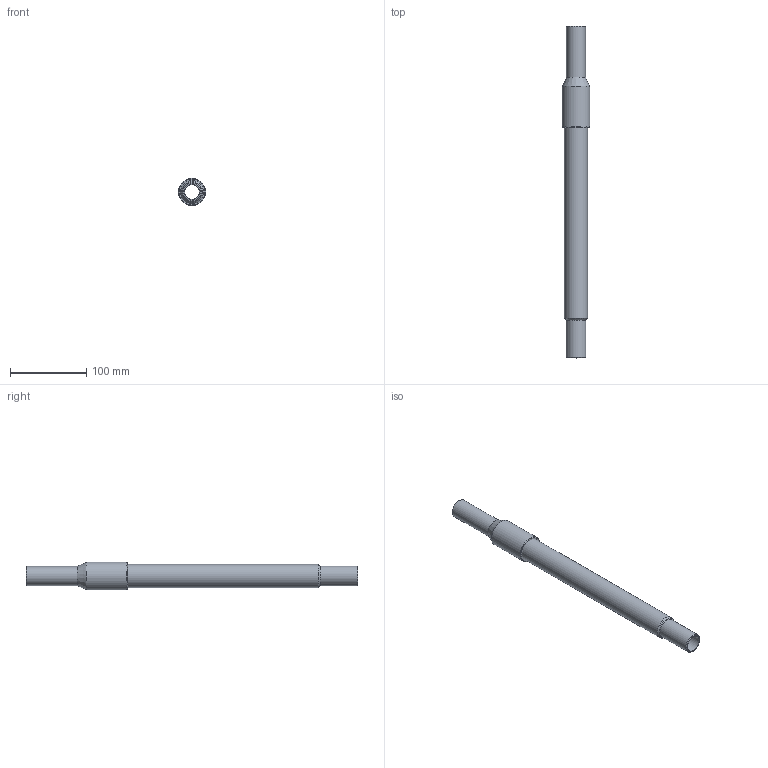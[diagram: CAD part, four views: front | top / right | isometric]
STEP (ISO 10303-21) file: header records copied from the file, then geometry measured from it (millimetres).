
FILE_DESCRIPTION(/* description */ ('Unknown'),/* implementation_level */ '2;1');
FILE_NAME(/* name */ 'RTSZRP025C',/* time_stamp */ '2022-04-27T09:42:21+02:00',/* author */ ('Unknown'),/* organization */ ('Unknown'),/* preprocessor_version */ 'ST-DEVELOPER v18.1',/* originating_system */ 'Solid Edge',/* authorisation */ 'Unknown');
FILE_SCHEMA (('AUTOMOTIVE_DESIGN {1 0 10303 214 3 1 1}'));
Length unit declared in the file: millimetre
Products named in the file (4): RTSZRP025C; copertura tubo; Partea ACCIAIO; Parte PE_
Assembly tree (3 placements, depth 2):
  RTSZRP025C
    copertura tubo
    Partea ACCIAIO
    Parte PE_
Bounding box: 36 x 435 x 36 mm (x, y, z)
Volume: 162343.8 mm3; surface area: 131187.9 mm2
Topology: 3 solids, 3 shells, 21 faces, 39 edges, 24 vertices
Faces by surface type: cylinder 9, plane 6, cone 4, torus 2
Full cylindrical faces by diameter (mm): 19 x1, 21.7 x1, 25 x1, 25.9 x1, 26.428 x1, 26.9 x2, 30.5 x1, 36 x1
Entity records: 538 total; most frequent: DIRECTION 92, CARTESIAN_POINT 67, AXIS2_PLACEMENT_3D 46, ORIENTED_EDGE 42, EDGE_LOOP 42, FACE_BOUND 42, EDGE_CURVE 21, VERTEX_POINT 21
